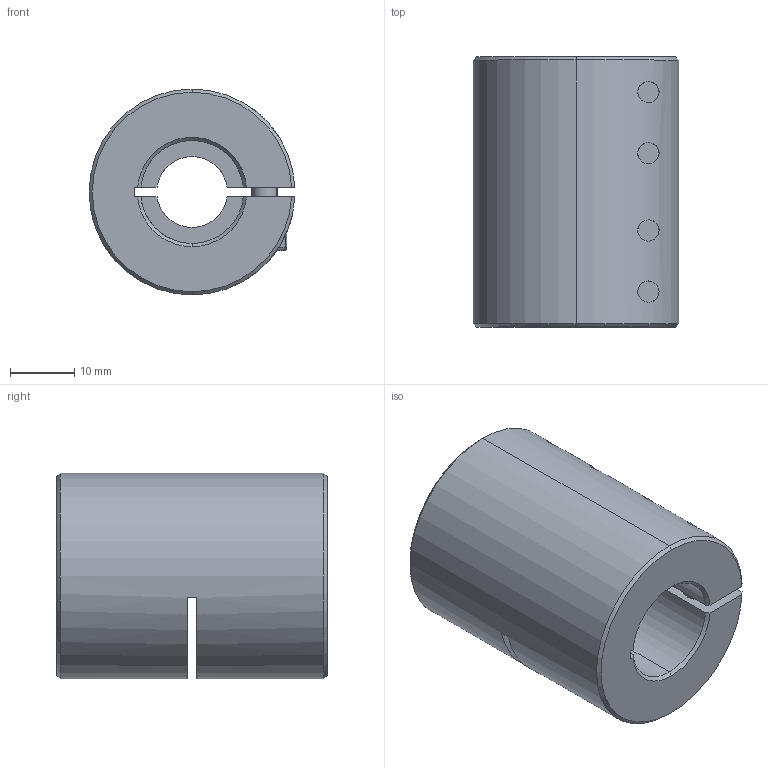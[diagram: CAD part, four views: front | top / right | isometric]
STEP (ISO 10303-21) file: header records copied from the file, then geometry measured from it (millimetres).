
FILE_DESCRIPTION (( 'STEP AP203' ), '1' );
FILE_NAME ('LL-B-D32L42-11-16.STEP', '2021-11-05T07:50:05', ( '' ), ( '' ), 'SwSTEP 2.0', 'SolidWorks 2018', '' );
FILE_SCHEMA (( 'CONFIG_CONTROL_DESIGN' ));
Length unit declared in the file: millimetre
Products named in the file (1): LL-B-D32L42-11-16
Bounding box: 31.98 x 42 x 32 mm (x, y, z)
Volume: 25336 mm3; surface area: 10320.5 mm2
Topology: 1 solids, 1 shells, 192 faces, 489 edges, 307 vertices
Faces by surface type: plane 88, cylinder 76, cone 20, torus 8
Entity records: 6343 total; most frequent: CARTESIAN_POINT 1553, DIRECTION 1032, ORIENTED_EDGE 962, EDGE_CURVE 481, AXIS2_PLACEMENT_3D 402, VERTEX_POINT 307, VECTOR 228, LINE 228
